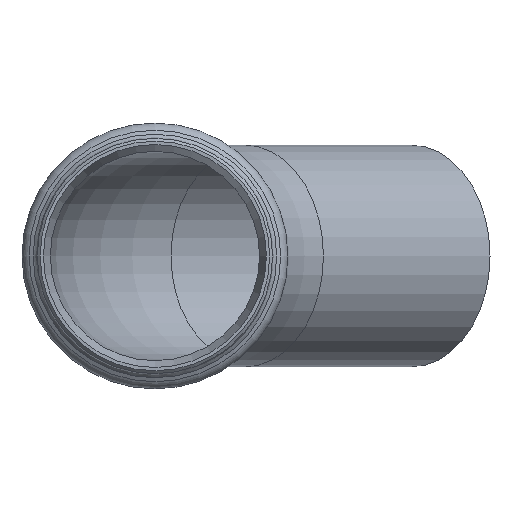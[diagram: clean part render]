
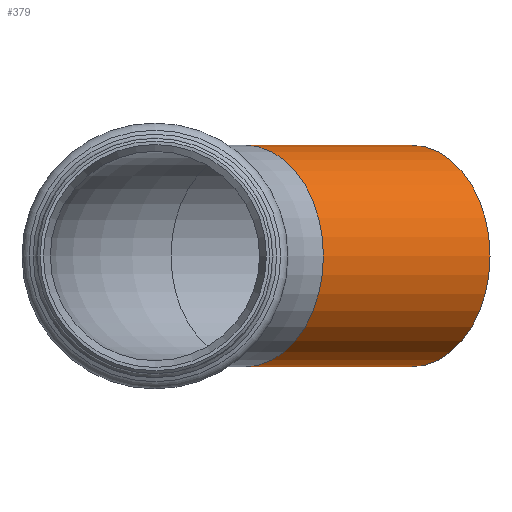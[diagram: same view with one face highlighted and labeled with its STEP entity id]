
A CAD part, left-side view. The second image highlights one B-rep face of the part: STEP entity #379.
In plain terms, the highlighted cylindrical face has radius 27 mm (diameter 54 mm), a full revolution.
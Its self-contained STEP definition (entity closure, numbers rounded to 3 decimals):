
#352=CARTESIAN_POINT('',(53.033,-21.967,0.0));
#353=DIRECTION('',(0.707,-0.707,0.0));
#354=DIRECTION('',(0.0,0.0,1.0));
#355=AXIS2_PLACEMENT_3D('',#352,#353,#354);
#356=CYLINDRICAL_SURFACE('',#355,27.0);
#357=CARTESIAN_POINT('',(93.645,-62.579,-27.0));
#358=VERTEX_POINT('',#357);
#359=CARTESIAN_POINT('',(93.645,-62.579,0.0));
#360=DIRECTION('',(-0.707,0.707,0.0));
#361=DIRECTION('',(0.0,0.0,1.0));
#362=AXIS2_PLACEMENT_3D('',#359,#360,#361);
#363=CIRCLE('',#362,27.0);
#364=EDGE_CURVE('',#358,#358,#363,.T.);
#365=ORIENTED_EDGE('',*,*,#364,.T.);
#366=EDGE_LOOP('',(#365));
#367=FACE_OUTER_BOUND('',#366,.T.);
#368=CARTESIAN_POINT('',(53.033,-21.967,-27.0));
#369=VERTEX_POINT('',#368);
#370=CARTESIAN_POINT('',(53.033,-21.967,0.0));
#371=DIRECTION('',(-0.707,0.707,0.0));
#372=DIRECTION('',(0.0,0.0,1.0));
#373=AXIS2_PLACEMENT_3D('',#370,#371,#372);
#374=CIRCLE('',#373,27.0);
#375=EDGE_CURVE('',#369,#369,#374,.T.);
#376=ORIENTED_EDGE('',*,*,#375,.F.);
#377=EDGE_LOOP('',(#376));
#378=FACE_BOUND('',#377,.T.);
#379=ADVANCED_FACE('',(#367,#378),#356,.T.);
